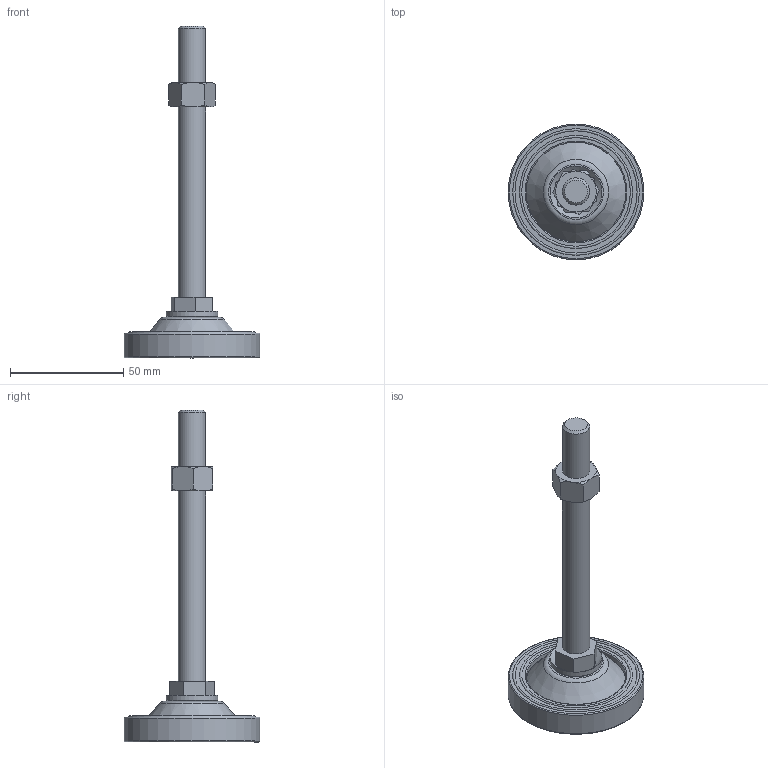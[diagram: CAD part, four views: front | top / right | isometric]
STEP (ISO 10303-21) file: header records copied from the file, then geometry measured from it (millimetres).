
FILE_DESCRIPTION((' '),'2;1');
FILE_NAME('Y:\00. A standard brand\06. 3D Modeling\외부전송용_STEP\LEVELLING FOOT(STEP)\A-PLR SERIES STEP\A-PLR-12-120.stp.stp','2011-11-22T18:37:39',(' '),(' '),' ','ACIS',' ');
FILE_SCHEMA(('CONFIG_CONTROL_DESIGN'));
Length unit declared in the file: millimetre
Products named in the file (1): Y:\00. A standard brand\06. 3D Modeling\외부전송용_STEP\LEVELLING FOOT(STEP)\A-PLR SERIES STEP\A-PLR-12-120.stp.stp
Bounding box: 60 x 60 x 146.75 mm (x, y, z)
Volume: 46182.6 mm3; surface area: 20168.8 mm2
Topology: 2 solids, 3 shells, 116 faces, 264 edges, 166 vertices
Faces by surface type: plane 54, cylinder 20, cone 17, torus 15, bspline 10
Full cylindrical faces by diameter (mm): 8 x1, 12 x4, 16 x1, 19.27 x1, 23 x1, 31 x1, 44 x2, 60 x1
Entity records: 3468 total; most frequent: CARTESIAN_POINT 1043, DIRECTION 478, ORIENTED_EDGE 428, EDGE_CURVE 214, AXIS2_PLACEMENT_3D 193, EDGE_LOOP 164, VERTEX_POINT 152, FACE_OUTER_BOUND 116
